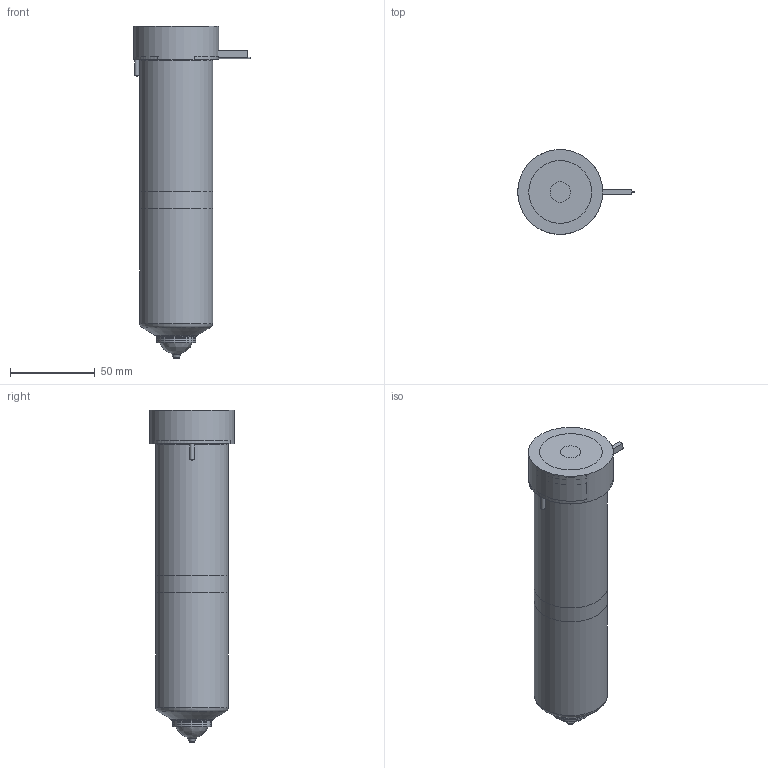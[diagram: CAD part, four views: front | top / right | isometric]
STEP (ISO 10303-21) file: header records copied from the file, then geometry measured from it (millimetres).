
FILE_DESCRIPTION(/* description */ (''),/* implementation_level */ '2;1');
FILE_NAME(/* name */ 'BXOV27175_250C_b',/* time_stamp */ '2007-01-18T08:47:53+13:00',/* author */ (''),/* organization */ (''),/* preprocessor_version */ 'ST-DEVELOPER v9',/* originating_system */ 'UGS - NX 4.0',/* authorisation */ '');
FILE_SCHEMA (('CONFIG_CONTROL_DESIGN'));
Length unit declared in the file: millimetre
Products named in the file (1): BXOV27175_250C_b
Bounding box: 68.6 x 50 x 195.58 mm (x, y, z)
Volume: 506815.2 mm3; surface area: 62148.3 mm2
Topology: 6 solids, 6 shells, 86 faces, 171 edges, 109 vertices
Faces by surface type: plane 35, cylinder 25, cone 14, torus 9, bspline 3
Full cylindrical faces by diameter (mm): 1 x3, 2.5 x2, 5 x1, 12 x1, 16.8 x1, 17 x1, 22.61 x1, 23.01 x2, 27.5 x1, 38.1 x1, 43 x2, 50 x1
Entity records: 2273 total; most frequent: CARTESIAN_POINT 571, DIRECTION 356, ORIENTED_EDGE 254, AXIS2_PLACEMENT_3D 159, EDGE_LOOP 134, EDGE_CURVE 127, VERTEX_POINT 102, ADVANCED_FACE 86
